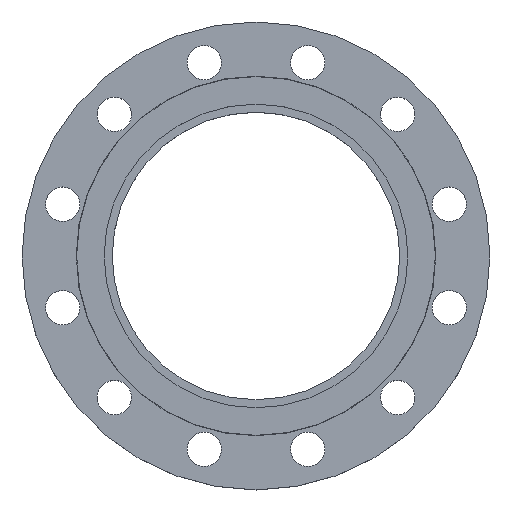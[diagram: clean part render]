
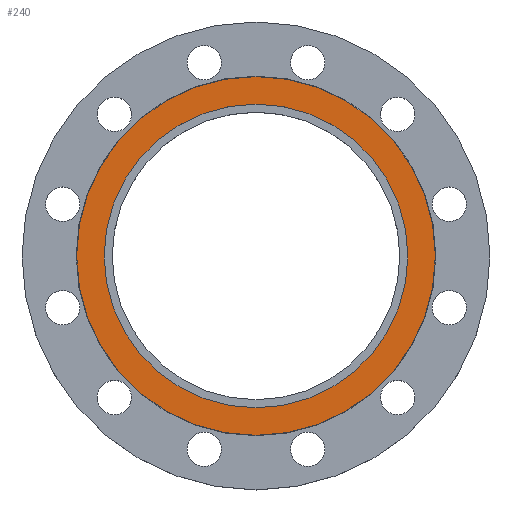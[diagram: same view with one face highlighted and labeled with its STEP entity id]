
A CAD part, top view. The second image highlights one B-rep face of the part: STEP entity #240.
In plain terms, the highlighted planar face has unit normal (0, 0, 1).
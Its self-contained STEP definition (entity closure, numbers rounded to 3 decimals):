
#6 = CIRCLE ( 'NONE', #11, 172.5 ) ;
#11 = AXIS2_PLACEMENT_3D ( 'NONE', #643, #646, #637 ) ;
#29 = CIRCLE ( 'NONE', #74, 146. ) ;
#65 = EDGE_CURVE ( 'NONE', #796, #917, #6, .T. ) ;
#74 = AXIS2_PLACEMENT_3D ( 'NONE', #636, #635, #633 ) ;
#81 = DIRECTION ( 'NONE',  ( -1., 0., 0. ) ) ;
#82 = DIRECTION ( 'NONE',  ( 0., 0., -1. ) ) ;
#83 = CARTESIAN_POINT ( 'NONE',  ( 0., 0., 0. ) ) ;
#99 = EDGE_CURVE ( 'NONE', #684, #986, #29, .T. ) ;
#153 = CARTESIAN_POINT ( 'NONE',  ( -146., 0., 0. ) ) ;
#197 = CARTESIAN_POINT ( 'NONE',  ( -172.5, 0., 0. ) ) ;
#240 = ADVANCED_FACE ( 'NONE', ( #609, #604 ), #603, .T. ) ;
#266 = AXIS2_PLACEMENT_3D ( 'NONE', #602, #599, #598 ) ;
#339 = CARTESIAN_POINT ( 'NONE',  ( 172.5, 0., 0. ) ) ;
#441 = CARTESIAN_POINT ( 'NONE',  ( 0., 0., 0. ) ) ;
#479 = CARTESIAN_POINT ( 'NONE',  ( 146., 0., 0. ) ) ;
#550 = CIRCLE ( 'NONE', #556, 172.5 ) ;
#556 = AXIS2_PLACEMENT_3D ( 'NONE', #441, #640, #639 ) ;
#598 = DIRECTION ( 'NONE',  ( 1., 0., 0. ) ) ;
#599 = DIRECTION ( 'NONE',  ( 0., 0., 1. ) ) ;
#602 = CARTESIAN_POINT ( 'NONE',  ( 0., 0., 0. ) ) ;
#603 = PLANE ( 'NONE',  #266 ) ;
#604 = FACE_BOUND ( 'NONE', #897, .T. ) ;
#608 = CIRCLE ( 'NONE', #747, 146. ) ;
#609 = FACE_OUTER_BOUND ( 'NONE', #918, .T. ) ;
#633 = DIRECTION ( 'NONE',  ( -1., 0., 0. ) ) ;
#635 = DIRECTION ( 'NONE',  ( 0., 0., -1. ) ) ;
#636 = CARTESIAN_POINT ( 'NONE',  ( 0., 0., 0. ) ) ;
#637 = DIRECTION ( 'NONE',  ( -1., 0., 0. ) ) ;
#639 = DIRECTION ( 'NONE',  ( -1., 0., 0. ) ) ;
#640 = DIRECTION ( 'NONE',  ( 0., 0., -1. ) ) ;
#643 = CARTESIAN_POINT ( 'NONE',  ( 0., 0., 0. ) ) ;
#646 = DIRECTION ( 'NONE',  ( 0., 0., -1. ) ) ;
#684 = VERTEX_POINT ( 'NONE', #479 ) ;
#714 = EDGE_CURVE ( 'NONE', #917, #796, #550, .T. ) ;
#747 = AXIS2_PLACEMENT_3D ( 'NONE', #83, #82, #81 ) ;
#796 = VERTEX_POINT ( 'NONE', #339 ) ;
#897 = EDGE_LOOP ( 'NONE', ( #1242, #1244 ) ) ;
#917 = VERTEX_POINT ( 'NONE', #197 ) ;
#918 = EDGE_LOOP ( 'NONE', ( #1240, #1241 ) ) ;
#986 = VERTEX_POINT ( 'NONE', #153 ) ;
#1061 = EDGE_CURVE ( 'NONE', #986, #684, #608, .T. ) ;
#1240 = ORIENTED_EDGE ( 'NONE', *, *, #714, .F. ) ;
#1241 = ORIENTED_EDGE ( 'NONE', *, *, #65, .F. ) ;
#1242 = ORIENTED_EDGE ( 'NONE', *, *, #1061, .T. ) ;
#1244 = ORIENTED_EDGE ( 'NONE', *, *, #99, .T. ) ;
